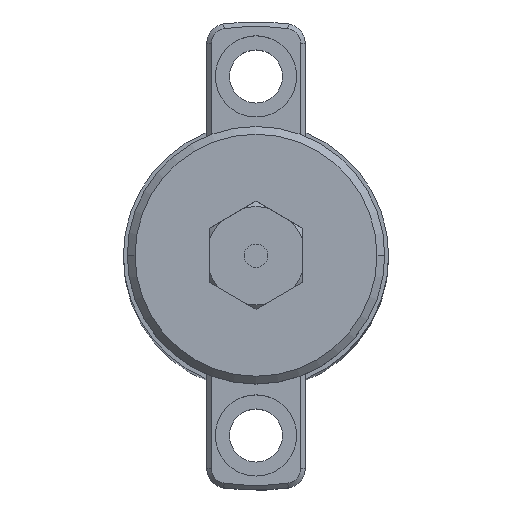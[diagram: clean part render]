
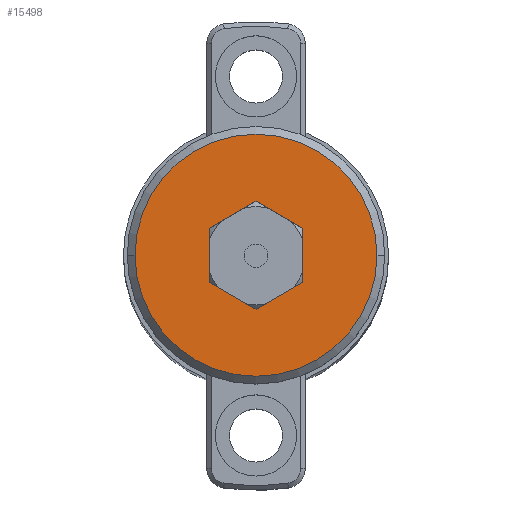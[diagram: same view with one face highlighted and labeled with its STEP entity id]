
A CAD part, top view. The second image highlights one B-rep face of the part: STEP entity #15498.
In plain terms, the highlighted planar face has unit normal (0, 0, 1).
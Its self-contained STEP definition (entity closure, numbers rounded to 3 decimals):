
#260 = DIRECTION ( 'NONE',  ( 0., 0., 1. ) ) ;
#416 = EDGE_CURVE ( 'NONE', #7760, #13158, #6974, .T. ) ;
#462 = CARTESIAN_POINT ( 'NONE',  ( 0., 6.928, 0. ) ) ;
#556 = DIRECTION ( 'NONE',  ( 0., -1., 0. ) ) ;
#645 = ORIENTED_EDGE ( 'NONE', *, *, #1557, .F. ) ;
#714 = AXIS2_PLACEMENT_3D ( 'NONE', #7910, #260, #9181 ) ;
#758 = CARTESIAN_POINT ( 'NONE',  ( 6., 3.464, 0. ) ) ;
#1557 = EDGE_CURVE ( 'NONE', #10624, #9165, #10541, .T. ) ;
#1629 = VERTEX_POINT ( 'NONE', #14109 ) ;
#1819 = CARTESIAN_POINT ( 'NONE',  ( -6., 3.464, 0. ) ) ;
#1941 = VERTEX_POINT ( 'NONE', #3223 ) ;
#2056 = DIRECTION ( 'NONE',  ( 0., 0., -1. ) ) ;
#2065 = DIRECTION ( 'NONE',  ( -0.866, 0.5, 0. ) ) ;
#2573 = VECTOR ( 'NONE', #2065, 1000. ) ;
#2590 = VECTOR ( 'NONE', #7643, 1000. ) ;
#2658 = EDGE_CURVE ( 'NONE', #10028, #1629, #2766, .T. ) ;
#2687 = VERTEX_POINT ( 'NONE', #5406 ) ;
#2766 = CIRCLE ( 'NONE', #714, 15.5 ) ;
#2858 = CARTESIAN_POINT ( 'NONE',  ( 6., -3.464, 0. ) ) ;
#3223 = CARTESIAN_POINT ( 'NONE',  ( -6., -3.464, 0. ) ) ;
#3474 = AXIS2_PLACEMENT_3D ( 'NONE', #12900, #4700, #13578 ) ;
#3475 = VECTOR ( 'NONE', #5424, 1000. ) ;
#4026 = VECTOR ( 'NONE', #8115, 1000. ) ;
#4262 = EDGE_CURVE ( 'NONE', #13158, #1941, #9289, .T. ) ;
#4266 = ORIENTED_EDGE ( 'NONE', *, *, #8482, .F. ) ;
#4358 = EDGE_LOOP ( 'NONE', ( #12519, #6488 ) ) ;
#4437 = CIRCLE ( 'NONE', #3474, 15.5 ) ;
#4584 = CARTESIAN_POINT ( 'NONE',  ( 0., 15.5, 0. ) ) ;
#4700 = DIRECTION ( 'NONE',  ( 0., 0., 1. ) ) ;
#5296 = CARTESIAN_POINT ( 'NONE',  ( 6., -3.464, 0. ) ) ;
#5406 = CARTESIAN_POINT ( 'NONE',  ( 6., 3.464, 0. ) ) ;
#5424 = DIRECTION ( 'NONE',  ( 0., 1., 0. ) ) ;
#6017 = ORIENTED_EDGE ( 'NONE', *, *, #416, .F. ) ;
#6075 = CARTESIAN_POINT ( 'NONE',  ( 15.5, 0., 0. ) ) ;
#6488 = ORIENTED_EDGE ( 'NONE', *, *, #2658, .T. ) ;
#6497 = ORIENTED_EDGE ( 'NONE', *, *, #4262, .F. ) ;
#6969 = ORIENTED_EDGE ( 'NONE', *, *, #14344, .F. ) ;
#6974 = LINE ( 'NONE', #462, #4026 ) ;
#7643 = DIRECTION ( 'NONE',  ( 0.866, 0.5, 0. ) ) ;
#7760 = VERTEX_POINT ( 'NONE', #13177 ) ;
#7910 = CARTESIAN_POINT ( 'NONE',  ( 0., 0., 0. ) ) ;
#7923 = FACE_BOUND ( 'NONE', #10445, .T. ) ;
#8115 = DIRECTION ( 'NONE',  ( -0.866, -0.5, 0. ) ) ;
#8279 = CARTESIAN_POINT ( 'NONE',  ( 0., -6.928, 0. ) ) ;
#8406 = PLANE ( 'NONE',  #8673 ) ;
#8418 = ORIENTED_EDGE ( 'NONE', *, *, #11165, .F. ) ;
#8482 = EDGE_CURVE ( 'NONE', #9165, #2687, #16209, .T. ) ;
#8582 = VECTOR ( 'NONE', #13056, 1000. ) ;
#8673 = AXIS2_PLACEMENT_3D ( 'NONE', #4584, #2056, #10960 ) ;
#9165 = VERTEX_POINT ( 'NONE', #5296 ) ;
#9181 = DIRECTION ( 'NONE',  ( 1., 0., 0. ) ) ;
#9211 = CARTESIAN_POINT ( 'NONE',  ( -6., -3.464, 0. ) ) ;
#9289 = LINE ( 'NONE', #9486, #12276 ) ;
#9486 = CARTESIAN_POINT ( 'NONE',  ( -6., 3.464, 0. ) ) ;
#9723 = LINE ( 'NONE', #758, #2573 ) ;
#9914 = EDGE_CURVE ( 'NONE', #1629, #10028, #4437, .T. ) ;
#10028 = VERTEX_POINT ( 'NONE', #6075 ) ;
#10445 = EDGE_LOOP ( 'NONE', ( #6017, #6969, #4266, #645, #8418, #6497 ) ) ;
#10541 = LINE ( 'NONE', #13992, #2590 ) ;
#10624 = VERTEX_POINT ( 'NONE', #8279 ) ;
#10960 = DIRECTION ( 'NONE',  ( -1., 0., 0. ) ) ;
#11165 = EDGE_CURVE ( 'NONE', #1941, #10624, #12365, .T. ) ;
#12276 = VECTOR ( 'NONE', #556, 1000. ) ;
#12365 = LINE ( 'NONE', #9211, #8582 ) ;
#12519 = ORIENTED_EDGE ( 'NONE', *, *, #9914, .T. ) ;
#12900 = CARTESIAN_POINT ( 'NONE',  ( 0., 0., 0. ) ) ;
#13056 = DIRECTION ( 'NONE',  ( 0.866, -0.5, 0. ) ) ;
#13158 = VERTEX_POINT ( 'NONE', #1819 ) ;
#13177 = CARTESIAN_POINT ( 'NONE',  ( 0., 6.928, 0. ) ) ;
#13578 = DIRECTION ( 'NONE',  ( 1., 0., 0. ) ) ;
#13992 = CARTESIAN_POINT ( 'NONE',  ( 0., -6.928, 0. ) ) ;
#14109 = CARTESIAN_POINT ( 'NONE',  ( -15.5, 0., 0. ) ) ;
#14304 = FACE_OUTER_BOUND ( 'NONE', #4358, .T. ) ;
#14344 = EDGE_CURVE ( 'NONE', #2687, #7760, #9723, .T. ) ;
#15498 = ADVANCED_FACE ( 'NONE', ( #7923, #14304 ), #8406, .F. ) ;
#16209 = LINE ( 'NONE', #2858, #3475 ) ;
